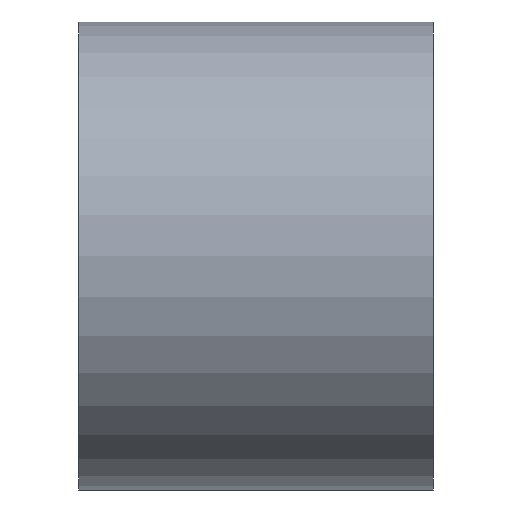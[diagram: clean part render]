
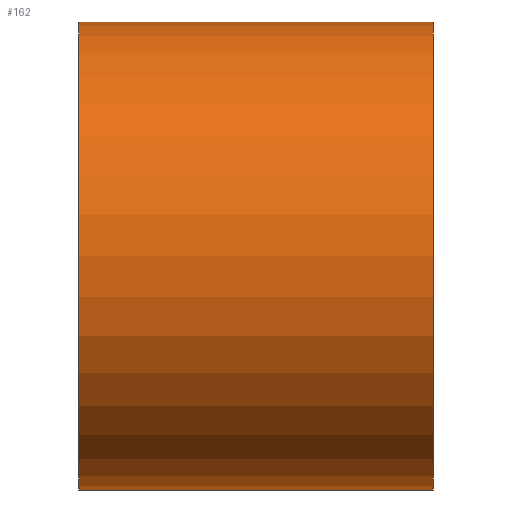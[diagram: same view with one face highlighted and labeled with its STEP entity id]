
A CAD part, front view. The second image highlights one B-rep face of the part: STEP entity #162.
In plain terms, the highlighted cylindrical face has radius 330 mm (diameter 660 mm), a partial arc.
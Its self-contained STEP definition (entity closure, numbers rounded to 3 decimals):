
#162=ADVANCED_FACE('',(#326),#327,.T.);
#326=FACE_OUTER_BOUND('',#509,.T.);
#327=CYLINDRICAL_SURFACE('',#510,330.0);
#509=EDGE_LOOP('',(#927,#928,#929,#930));
#510=AXIS2_PLACEMENT_3D('',#931,#932,#933);
#927=ORIENTED_EDGE('',*,*,#999,.T.);
#928=ORIENTED_EDGE('',*,*,#1173,.F.);
#929=ORIENTED_EDGE('',*,*,#1001,.T.);
#930=ORIENTED_EDGE('',*,*,#1174,.F.);
#931=CARTESIAN_POINT('',(0.0,0.0,0.0));
#932=DIRECTION('',(1.0,0.0,0.0));
#933=DIRECTION('',(0.0,0.0,-1.0));
#999=EDGE_CURVE('',#1178,#1179,#1180,.T.);
#1001=EDGE_CURVE('',#1183,#1181,#1184,.T.);
#1173=EDGE_CURVE('',#1183,#1179,#1439,.T.);
#1174=EDGE_CURVE('',#1178,#1181,#1440,.T.);
#1178=VERTEX_POINT('',#1444);
#1179=VERTEX_POINT('',#1445);
#1180=LINE('',#1446,#1447);
#1181=VERTEX_POINT('',#1448);
#1183=VERTEX_POINT('',#1450);
#1184=LINE('',#1451,#1452);
#1439=CIRCLE('',#1759,330.0);
#1440=CIRCLE('',#1760,330.0);
#1444=CARTESIAN_POINT('',(-250.0,0.0,-330.0));
#1445=CARTESIAN_POINT('',(250.0,0.0,-330.0));
#1446=CARTESIAN_POINT('',(0.0,0.,-330.0));
#1447=VECTOR('',#1763,1.0);
#1448=CARTESIAN_POINT('',(-250.0,0.,330.0));
#1450=CARTESIAN_POINT('',(250.0,0.,330.0));
#1451=CARTESIAN_POINT('',(0.0,0.,330.0));
#1452=VECTOR('',#1767,1.0);
#1759=AXIS2_PLACEMENT_3D('',#2042,#2043,#2044);
#1760=AXIS2_PLACEMENT_3D('',#2045,#2046,#2047);
#1763=DIRECTION('',(1.0,0.0,0.0));
#1767=DIRECTION('',(-1.0,-0.0,-0.0));
#2042=CARTESIAN_POINT('',(250.0,0.0,0.0));
#2043=DIRECTION('',(1.0,0.0,0.0));
#2044=DIRECTION('',(0.0,0.0,-1.0));
#2045=CARTESIAN_POINT('',(-250.0,0.0,0.0));
#2046=DIRECTION('',(-1.0,0.0,0.0));
#2047=DIRECTION('',(0.0,0.0,-1.0));
